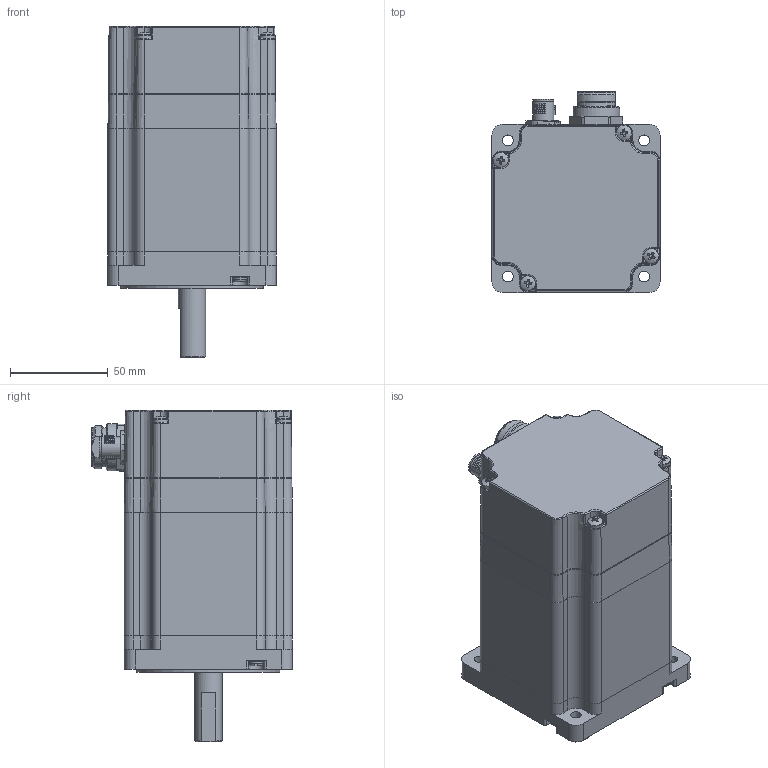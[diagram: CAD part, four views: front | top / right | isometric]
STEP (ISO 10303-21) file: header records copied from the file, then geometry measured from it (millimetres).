
FILE_DESCRIPTION (( 'STEP AP214' ), '1' );
FILE_NAME ('M86SH96.STEP', '2021-12-16T10:42:17', ( '' ), ( '' ), 'SwSTEP 2.0', 'SolidWorks 2019', '' );
FILE_SCHEMA (( 'AUTOMOTIVE_DESIGN' ));
Length unit declared in the file: millimetre
Products named in the file (13): Flangia  86 BAO; Cuscinetto anteriore 86 BAO; Vite M4 impronta a croce terminal box 86SH_a; Cuscinetto posteriore 86 BAO; 7_8connector-1521452; M86SH96; 1523492; Guarnizione 86SH; Vite serrapacco 96 BAO M4x109.5; Terminal box 86 BAO; Statore 86SH96 BAO; Flangia P 86 BAO; Albero 86SH96 BAO
Assembly tree (18 placements, depth 2):
  M86SH96
    Statore 86SH96 BAO
    Flangia  86 BAO
    Flangia P 86 BAO
    Cuscinetto anteriore 86 BAO
    Cuscinetto posteriore 86 BAO
    Albero 86SH96 BAO
    Vite serrapacco 96 BAO M4x109.5  x4
    Terminal box 86 BAO
    7_8connector-1521452
    1523492
    Vite M4 impronta a croce terminal box 86SH_a  x4
    Guarnizione 86SH
Bounding box: 85.9 x 102.59 x 169.2 mm (x, y, z)
Volume: 523670 mm3; surface area: 180044 mm2
Topology: 31 solids, 31 shells, 1836 faces, 4334 edges, 2631 vertices
Faces by surface type: plane 681, cylinder 494, cone 475, bspline 116, torus 58, sphere 12
Full cylindrical faces by diameter (mm): 0.217 x1, 0.8 x8, 1.09 x8, 2 x5, 2.4 x5, 2.5 x1, 3 x5, 3.3 x12, 3.8 x4, 4 x177, 4.5 x24, 5.5 x4, 5.6 x4, 6.7 x4, 8 x5, 10.7 x1, 10.9 x1, 14 x1, 14.5 x1, 15 x2, 16.62 x1, 17 x2, 17.7 x1, 17.8 x1, 18 x1, 18.5 x2, 19.3 x2, 19.85 x2, 20.137 x2, 20.637 x1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
Entity records: 52849 total; most frequent: CARTESIAN_POINT 15431, DIRECTION 5766, ORIENTED_EDGE 5364, EDGE_CURVE 2682, AXIS2_PLACEMENT_3D 2181, VERTEX_POINT 1903, EDGE_LOOP 1855, FACE_OUTER_BOUND 1498
